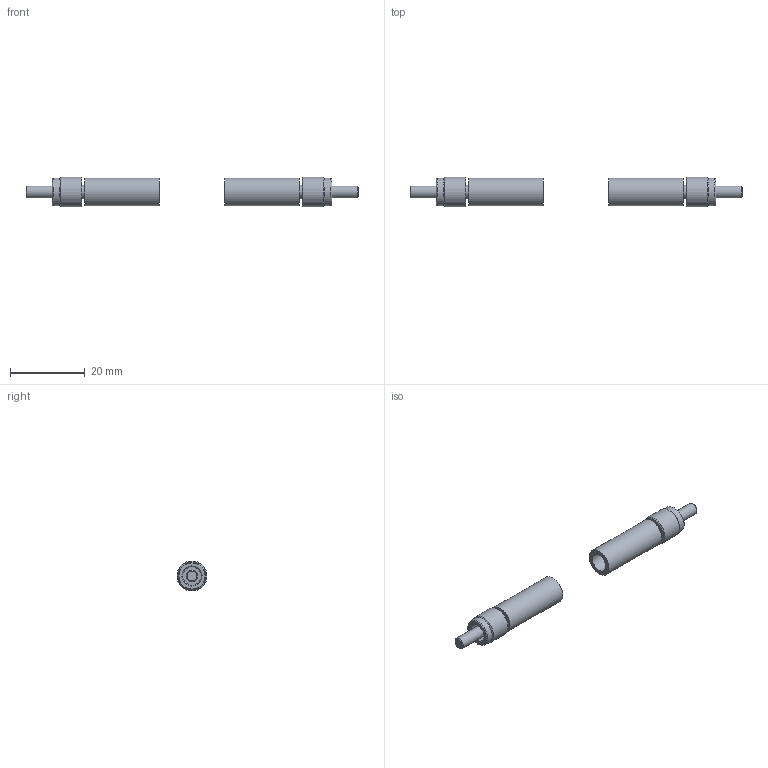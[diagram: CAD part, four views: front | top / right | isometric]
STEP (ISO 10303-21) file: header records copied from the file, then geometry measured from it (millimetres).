
FILE_DESCRIPTION( ( 'STEP AP203' ), ' ' );
FILE_NAME( 'p:/temp/worker_12/3972_3860/app_71_02015083108152604326925192d056f_000000_00_00_000000/format_2/E35061.stp', '2015-08-31T06:15:27', ( '' ), ( '' ), ' ', 'PARTsolutions', ' ' );
FILE_SCHEMA( ( 'CONFIG_CONTROL_DESIGN' ) );
Length unit declared in the file: millimetre
Products named in the file (3): E35061; _E35061_p2; _E35061_p1
Assembly tree (4 placements, depth 2):
  E35061
    _E35061_p2  x2
    _E35061_p1  x2
Bounding box: 89 x 8 x 8 mm (x, y, z)
Volume: 1954.2 mm3; surface area: 2916.2 mm2
Topology: 4 solids, 4 shells, 38 faces, 60 edges, 36 vertices
Faces by surface type: plane 14, cylinder 14, cone 10
Full cylindrical faces by diameter (mm): 3.175 x2, 3.75 x2, 4.917 x2, 5 x2, 7.5 x4, 8 x2
Entity records: 502 total; most frequent: DIRECTION 84, CARTESIAN_POINT 60, AXIS2_PLACEMENT_3D 42, EDGE_LOOP 36, ORIENTED_EDGE 36, FACE_OUTER_BOUND 26, ADVANCED_FACE 19, EDGE_CURVE 18
